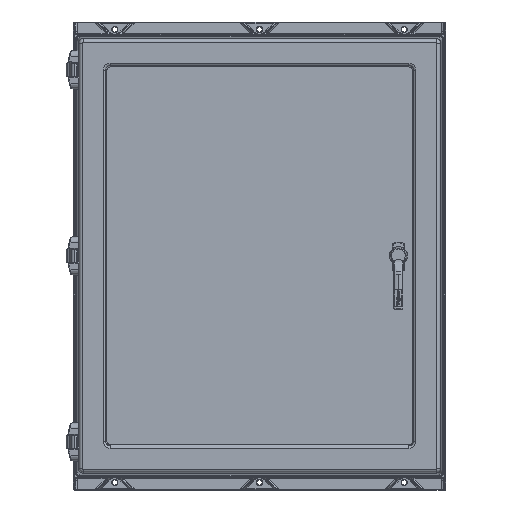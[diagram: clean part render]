
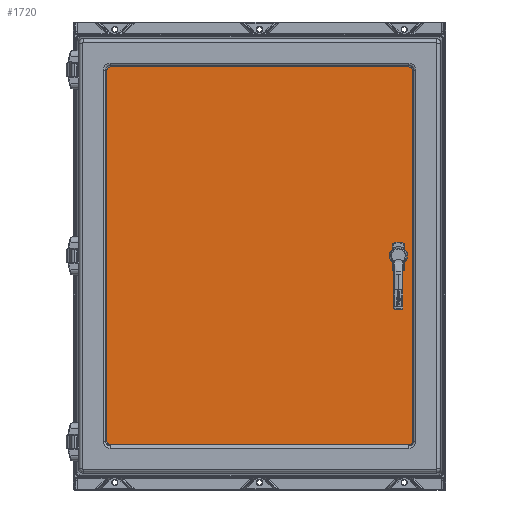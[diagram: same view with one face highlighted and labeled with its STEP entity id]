
A CAD part, top view. The second image highlights one B-rep face of the part: STEP entity #1720.
In plain terms, the highlighted planar face has unit normal (0, 0, 1).
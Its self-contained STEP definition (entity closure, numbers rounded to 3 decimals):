
#1720 = ADVANCED_FACE ( 'NONE', ( #87205, #87207, #87211, #87215 ), #36924, .T. ) ;
#24175 = CARTESIAN_POINT ( 'NONE',  ( 12.659, 15.392, 1.02 ) ) ;
#24179 = CARTESIAN_POINT ( 'NONE',  ( 12.659, -15.392, 1.02 ) ) ;
#24181 = CARTESIAN_POINT ( 'NONE',  ( 12.392, -15.659, 1.02 ) ) ;
#24182 = CARTESIAN_POINT ( 'NONE',  ( -12.391, -15.659, 1.02 ) ) ;
#24186 = CARTESIAN_POINT ( 'NONE',  ( -12.659, -15.392, 1.02 ) ) ;
#24190 = CARTESIAN_POINT ( 'NONE',  ( -12.659, 15.392, 1.02 ) ) ;
#24192 = CARTESIAN_POINT ( 'NONE',  ( -12.392, 15.659, 1.02 ) ) ;
#24195 = CARTESIAN_POINT ( 'NONE',  ( 12.392, 15.659, 1.02 ) ) ;
#24362 = CARTESIAN_POINT ( 'NONE',  ( 11.921, 0., 1.02 ) ) ;
#24364 = CARTESIAN_POINT ( 'NONE',  ( 11.109, 0., 1.02 ) ) ;
#24369 = CARTESIAN_POINT ( 'NONE',  ( 11.624, 0.906, 1.02 ) ) ;
#24371 = CARTESIAN_POINT ( 'NONE',  ( 11.406, 0.906, 1.02 ) ) ;
#24377 = CARTESIAN_POINT ( 'NONE',  ( 11.624, -0.906, 1.02 ) ) ;
#24379 = CARTESIAN_POINT ( 'NONE',  ( 11.406, -0.906, 1.02 ) ) ;
#36910 = DIRECTION ( 'NONE',  ( 1., 0., 0. ) ) ;
#36912 = DIRECTION ( 'NONE',  ( 0., 0., 1. ) ) ;
#36915 = CARTESIAN_POINT ( 'NONE',  ( -12.392, 15.392, 1.02 ) ) ;
#36924 = PLANE ( 'NONE',  #89665 ) ;
#43387 = AXIS2_PLACEMENT_3D ( 'NONE', #69822, #69828, #69830 ) ;
#43391 = AXIS2_PLACEMENT_3D ( 'NONE', #69836, #69847, #69848 ) ;
#43393 = AXIS2_PLACEMENT_3D ( 'NONE', #69802, #69808, #69810 ) ;
#43496 = AXIS2_PLACEMENT_3D ( 'NONE', #70464, #70467, #70469 ) ;
#43523 = AXIS2_PLACEMENT_3D ( 'NONE', #70411, #70444, #70446 ) ;
#43530 = AXIS2_PLACEMENT_3D ( 'NONE', #70477, #70481, #70482 ) ;
#43549 = AXIS2_PLACEMENT_3D ( 'NONE', #70479, #70519, #70520 ) ;
#43552 = AXIS2_PLACEMENT_3D ( 'NONE', #70516, #70545, #70547 ) ;
#43554 = AXIS2_PLACEMENT_3D ( 'NONE', #70510, #70529, #70531 ) ;
#43559 = AXIS2_PLACEMENT_3D ( 'NONE', #70527, #70555, #70556 ) ;
#52218 = EDGE_LOOP ( 'NONE', ( #86896, #86898, #86900, #86902, #86904, #86906, #86908, #86910 ) ) ;
#52222 = EDGE_LOOP ( 'NONE', ( #86892, #86894 ) ) ;
#52224 = EDGE_LOOP ( 'NONE', ( #86888, #86890 ) ) ;
#52260 = EDGE_LOOP ( 'NONE', ( #86884, #86886 ) ) ;
#55710 = VERTEX_POINT ( 'NONE', #24175 ) ;
#55712 = VERTEX_POINT ( 'NONE', #24179 ) ;
#55713 = VERTEX_POINT ( 'NONE', #24181 ) ;
#55715 = VERTEX_POINT ( 'NONE', #24182 ) ;
#55718 = VERTEX_POINT ( 'NONE', #24186 ) ;
#55720 = VERTEX_POINT ( 'NONE', #24190 ) ;
#55721 = VERTEX_POINT ( 'NONE', #24192 ) ;
#55723 = VERTEX_POINT ( 'NONE', #24195 ) ;
#55857 = VERTEX_POINT ( 'NONE', #24362 ) ;
#55859 = VERTEX_POINT ( 'NONE', #24364 ) ;
#55864 = VERTEX_POINT ( 'NONE', #24369 ) ;
#55866 = VERTEX_POINT ( 'NONE', #24371 ) ;
#55871 = VERTEX_POINT ( 'NONE', #24377 ) ;
#55873 = VERTEX_POINT ( 'NONE', #24379 ) ;
#60232 = CIRCLE ( 'NONE', #43393, 0.109 ) ;
#60239 = CIRCLE ( 'NONE', #43387, 0.109 ) ;
#60243 = CIRCLE ( 'NONE', #43391, 0.406 ) ;
#60374 = LINE ( 'NONE', #70523, #60389 ) ;
#60377 = CIRCLE ( 'NONE', #43523, 0.268 ) ;
#60378 = LINE ( 'NONE', #70534, #60391 ) ;
#60381 = CIRCLE ( 'NONE', #43496, 0.109 ) ;
#60383 = LINE ( 'NONE', #70549, #60393 ) ;
#60384 = CIRCLE ( 'NONE', #43530, 0.109 ) ;
#60389 = VECTOR ( 'NONE', #70525, 39.37 ) ;
#60391 = VECTOR ( 'NONE', #70536, 39.37 ) ;
#60392 = CIRCLE ( 'NONE', #43549, 0.406 ) ;
#60393 = VECTOR ( 'NONE', #70551, 39.37 ) ;
#60394 = CIRCLE ( 'NONE', #43554, 0.268 ) ;
#60395 = LINE ( 'NONE', #70538, #60396 ) ;
#60396 = VECTOR ( 'NONE', #70540, 39.37 ) ;
#60398 = CIRCLE ( 'NONE', #43552, 0.268 ) ;
#60400 = CIRCLE ( 'NONE', #43559, 0.268 ) ;
#69802 = CARTESIAN_POINT ( 'NONE',  ( 11.515, -0.906, 1.02 ) ) ;
#69808 = DIRECTION ( 'NONE',  ( 0., 0., 1. ) ) ;
#69810 = DIRECTION ( 'NONE',  ( 1., 0., 0. ) ) ;
#69822 = CARTESIAN_POINT ( 'NONE',  ( 11.515, 0.906, 1.02 ) ) ;
#69828 = DIRECTION ( 'NONE',  ( 0., 0., 1. ) ) ;
#69830 = DIRECTION ( 'NONE',  ( 1., 0., 0. ) ) ;
#69836 = CARTESIAN_POINT ( 'NONE',  ( 11.515, 0., 1.02 ) ) ;
#69847 = DIRECTION ( 'NONE',  ( 0., 0., 1. ) ) ;
#69848 = DIRECTION ( 'NONE',  ( 1., 0., 0. ) ) ;
#70411 = CARTESIAN_POINT ( 'NONE',  ( -12.391, -15.392, 1.02 ) ) ;
#70444 = DIRECTION ( 'NONE',  ( 0., 0., 1. ) ) ;
#70446 = DIRECTION ( 'NONE',  ( 1., 0., 0. ) ) ;
#70464 = CARTESIAN_POINT ( 'NONE',  ( 11.515, 0.906, 1.02 ) ) ;
#70467 = DIRECTION ( 'NONE',  ( 0., 0., 1. ) ) ;
#70469 = DIRECTION ( 'NONE',  ( 1., 0., 0. ) ) ;
#70477 = CARTESIAN_POINT ( 'NONE',  ( 11.515, -0.906, 1.02 ) ) ;
#70479 = CARTESIAN_POINT ( 'NONE',  ( 11.515, 0., 1.02 ) ) ;
#70481 = DIRECTION ( 'NONE',  ( 0., 0., 1. ) ) ;
#70482 = DIRECTION ( 'NONE',  ( 1., 0., 0. ) ) ;
#70510 = CARTESIAN_POINT ( 'NONE',  ( -12.392, 15.392, 1.02 ) ) ;
#70516 = CARTESIAN_POINT ( 'NONE',  ( 12.392, -15.392, 1.02 ) ) ;
#70519 = DIRECTION ( 'NONE',  ( 0., 0., 1. ) ) ;
#70520 = DIRECTION ( 'NONE',  ( 1., 0., 0. ) ) ;
#70523 = CARTESIAN_POINT ( 'NONE',  ( -12.392, 15.659, 1.02 ) ) ;
#70525 = DIRECTION ( 'NONE',  ( -1., 0., 0. ) ) ;
#70527 = CARTESIAN_POINT ( 'NONE',  ( 12.392, 15.392, 1.02 ) ) ;
#70529 = DIRECTION ( 'NONE',  ( 0., 0., 1. ) ) ;
#70531 = DIRECTION ( 'NONE',  ( 1., 0., 0. ) ) ;
#70534 = CARTESIAN_POINT ( 'NONE',  ( -12.659, -15.392, 1.02 ) ) ;
#70536 = DIRECTION ( 'NONE',  ( 0., -1., 0. ) ) ;
#70538 = CARTESIAN_POINT ( 'NONE',  ( 12.392, -15.659, 1.02 ) ) ;
#70540 = DIRECTION ( 'NONE',  ( 1., 0., 0. ) ) ;
#70545 = DIRECTION ( 'NONE',  ( 0., 0., 1. ) ) ;
#70547 = DIRECTION ( 'NONE',  ( 1., 0., 0. ) ) ;
#70549 = CARTESIAN_POINT ( 'NONE',  ( 12.659, 15.392, 1.02 ) ) ;
#70551 = DIRECTION ( 'NONE',  ( 0., 1., 0. ) ) ;
#70555 = DIRECTION ( 'NONE',  ( 0., 0., 1. ) ) ;
#70556 = DIRECTION ( 'NONE',  ( 1., 0., 0. ) ) ;
#80414 = EDGE_CURVE ( 'NONE', #55873, #55871, #60232, .T. ) ;
#80418 = EDGE_CURVE ( 'NONE', #55866, #55864, #60239, .T. ) ;
#80422 = EDGE_CURVE ( 'NONE', #55859, #55857, #60243, .T. ) ;
#80521 = EDGE_CURVE ( 'NONE', #55718, #55715, #60377, .T. ) ;
#80525 = EDGE_CURVE ( 'NONE', #55864, #55866, #60381, .T. ) ;
#80527 = EDGE_CURVE ( 'NONE', #55871, #55873, #60384, .T. ) ;
#80533 = EDGE_CURVE ( 'NONE', #55857, #55859, #60392, .T. ) ;
#80534 = EDGE_CURVE ( 'NONE', #55723, #55721, #60374, .T. ) ;
#80535 = EDGE_CURVE ( 'NONE', #55721, #55720, #60394, .T. ) ;
#80536 = EDGE_CURVE ( 'NONE', #55720, #55718, #60378, .T. ) ;
#80537 = EDGE_CURVE ( 'NONE', #55715, #55713, #60395, .T. ) ;
#80538 = EDGE_CURVE ( 'NONE', #55713, #55712, #60398, .T. ) ;
#80539 = EDGE_CURVE ( 'NONE', #55712, #55710, #60383, .T. ) ;
#80540 = EDGE_CURVE ( 'NONE', #55710, #55723, #60400, .T. ) ;
#86884 = ORIENTED_EDGE ( 'NONE', *, *, #80414, .F. ) ;
#86886 = ORIENTED_EDGE ( 'NONE', *, *, #80527, .F. ) ;
#86888 = ORIENTED_EDGE ( 'NONE', *, *, #80418, .F. ) ;
#86890 = ORIENTED_EDGE ( 'NONE', *, *, #80525, .F. ) ;
#86892 = ORIENTED_EDGE ( 'NONE', *, *, #80422, .F. ) ;
#86894 = ORIENTED_EDGE ( 'NONE', *, *, #80533, .F. ) ;
#86896 = ORIENTED_EDGE ( 'NONE', *, *, #80534, .T. ) ;
#86898 = ORIENTED_EDGE ( 'NONE', *, *, #80535, .T. ) ;
#86900 = ORIENTED_EDGE ( 'NONE', *, *, #80536, .T. ) ;
#86902 = ORIENTED_EDGE ( 'NONE', *, *, #80521, .T. ) ;
#86904 = ORIENTED_EDGE ( 'NONE', *, *, #80537, .T. ) ;
#86906 = ORIENTED_EDGE ( 'NONE', *, *, #80538, .T. ) ;
#86908 = ORIENTED_EDGE ( 'NONE', *, *, #80539, .T. ) ;
#86910 = ORIENTED_EDGE ( 'NONE', *, *, #80540, .T. ) ;
#87205 = FACE_BOUND ( 'NONE', #52260, .T. ) ;
#87207 = FACE_BOUND ( 'NONE', #52224, .T. ) ;
#87211 = FACE_BOUND ( 'NONE', #52222, .T. ) ;
#87215 = FACE_OUTER_BOUND ( 'NONE', #52218, .T. ) ;
#89665 = AXIS2_PLACEMENT_3D ( 'NONE', #36915, #36912, #36910 ) ;
